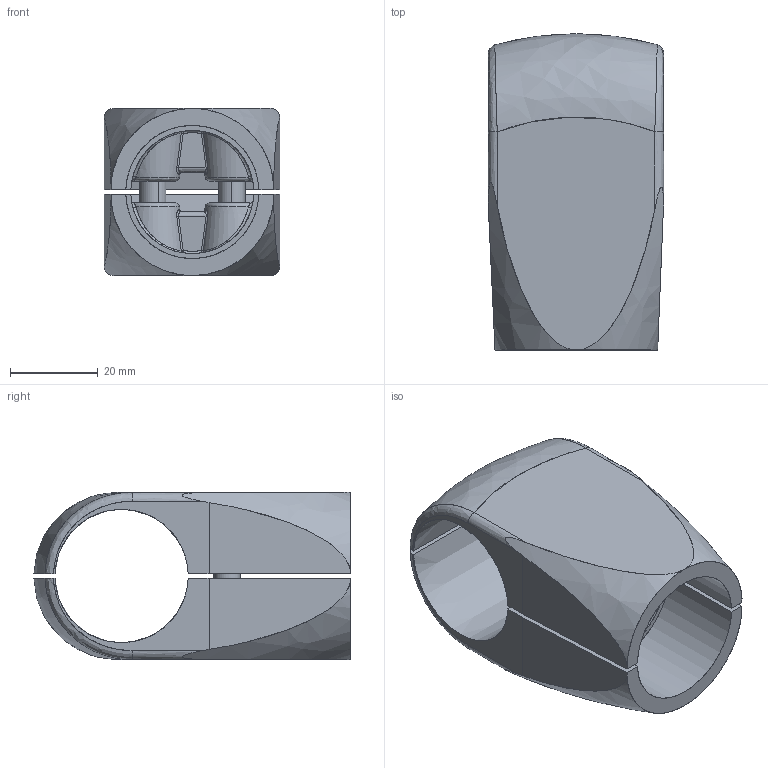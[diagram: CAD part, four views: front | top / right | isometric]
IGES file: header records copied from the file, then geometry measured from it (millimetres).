
Start section: SolidWorks IGES file using analytic representation for surfaces
Global section: file name: C:\Users\Gerard\OneDrive - Tecnodin, S.L\Escritorio\30 mm Verbinder im step. Format\31000410000.IGS; native system: SolidWorks 2016; preprocessor: SolidWorks 2016; author: Gerard; date: 240902.114650; units: millimetre
Bounding box: 39.85 x 71.95 x 38 mm (x, y, z)
Surface area: 20734.7 mm2 (no closed solid volume)
Topology: 0 solids, 0 shells, 180 faces, 2619 edges, 2611 vertices
Faces by surface type: bspline 108, revolution 72
